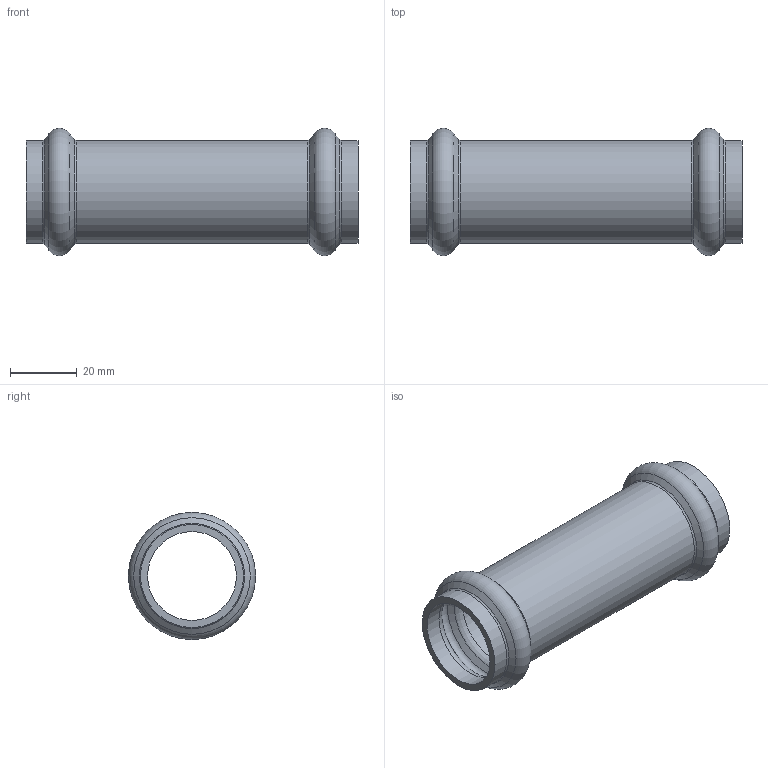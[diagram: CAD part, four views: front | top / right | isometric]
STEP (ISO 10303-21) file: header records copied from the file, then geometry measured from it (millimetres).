
FILE_DESCRIPTION(/* description */ ('VIC COUPLING STYLE P508 SLIP (P X P)','CAx-IF Rec.Pracs.---Representation and Presentation of Product Manufacturing Information (PMI)---4.0---2014-10-13'),/* implementation_level */ '2;1');
FILE_NAME(/* name */ 'C:\Users\kkamble\AppData\Roaming\Autodesk\ApplicationPlugins\Back Up\Victaulic_SS-Vic-Press-TP 316_Coupling Slip_Style P508 (VP)\Victaulic_SS-Vic-Press-TP 316_Coupling Slip_Style P508 (VP)_0.75 (20).stp',/* time_stamp */ '2020-08-14T11:54:22+05:00',/* author */ ('cgray'),/* organization */ ('Victaulic'),/* preprocessor_version */ 'ST-DEVELOPER v17.2',/* originating_system */ 'Autodesk Inventor 2019',/* authorisation */ '');
FILE_SCHEMA (('INTEGRATED_CNC_SCHEMA','AP242_MANAGED_MODEL_BASED_3D_ENGINEERING_MIM_LF { 1 0 10303 442 1 1 4 }'));
Length unit declared in the file: inch
Products named in the file (1): P508-0.75
Bounding box: 99.57 x 38.12 x 38.12 mm (x, y, z)
Volume: 20777.5 mm3; surface area: 20092.3 mm2
Topology: 1 solids, 1 shells, 28 faces, 106 edges, 80 vertices
Faces by surface type: torus 12, cone 8, cylinder 6, plane 2
Full cylindrical faces by diameter (mm): 26.67 x3, 30.886 x3
Entity records: 1390 total; most frequent: DIRECTION 282, CARTESIAN_POINT 232, ORIENTED_EDGE 212, AXIS2_PLACEMENT_3D 134, EDGE_CURVE 106, CIRCLE 92, VERTEX_POINT 80, EDGE_LOOP 30
